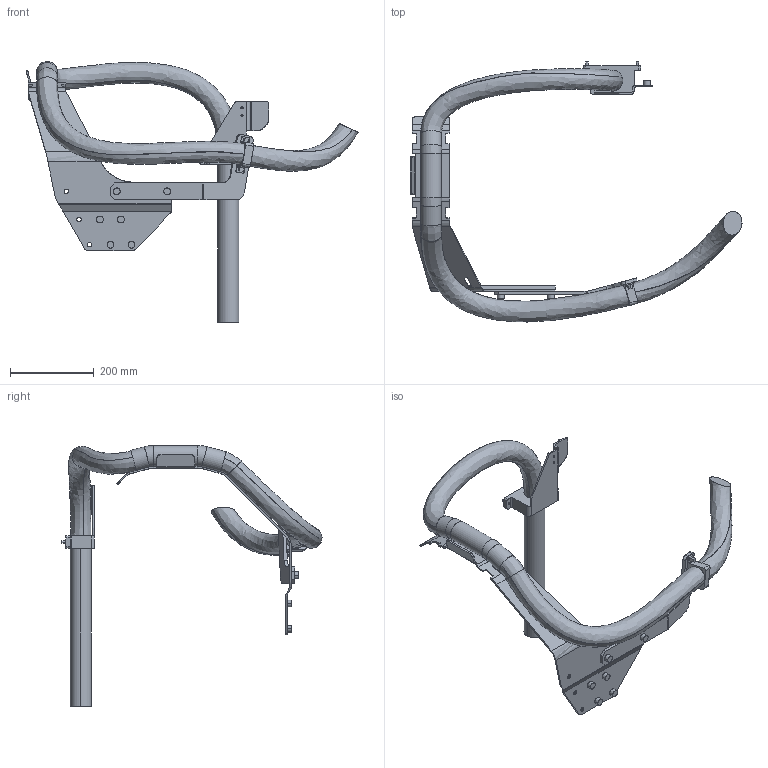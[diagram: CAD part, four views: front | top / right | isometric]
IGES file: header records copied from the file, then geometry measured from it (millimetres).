
Start section: SolidWorks IGES file using analytic representation for surfaces
Global section: file name: C:\Users\SEAMSTO1\OneDrive - ABB\PT\Macro\IGES\IRB6760-MH3_200kg-320_OC_00_IGES_J\IRB6760-MH3_All_OC_00_LINK01_CABLE.igs; native system: SolidWorks 2024; preprocessor: SolidWorks 2024; author: SEAMSTO1; date: 250930.151445; units: millimetre
Bounding box: 790.95 x 619.61 x 621.56 mm (x, y, z)
Surface area: 624244.9 mm2 (no closed solid volume)
Topology: 0 solids, 0 shells, 315 faces, 4238 edges, 4238 vertices
Faces by surface type: bspline 182, revolution 133
